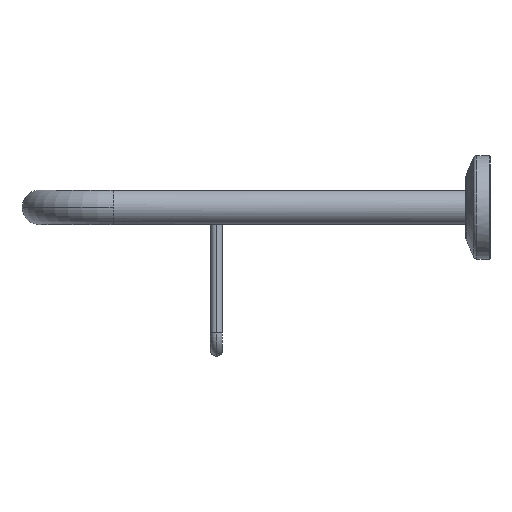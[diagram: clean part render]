
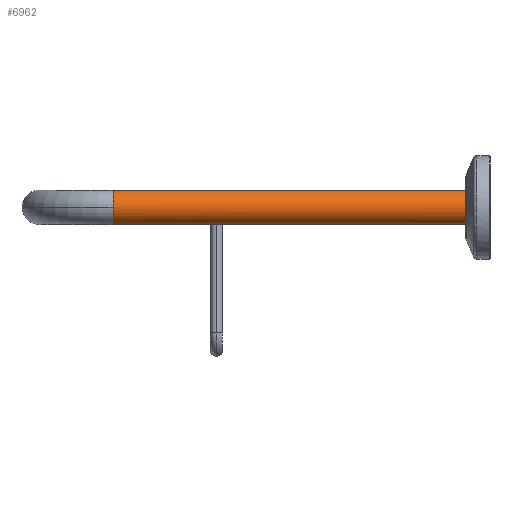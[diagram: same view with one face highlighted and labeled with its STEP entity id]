
A CAD part, left-side view. The second image highlights one B-rep face of the part: STEP entity #6962.
In plain terms, the highlighted cylindrical face has radius 10 mm (diameter 20 mm), a partial arc.
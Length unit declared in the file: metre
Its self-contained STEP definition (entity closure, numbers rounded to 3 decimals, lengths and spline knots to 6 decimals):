
#104=EDGE_CURVE('',#105,#108,#110,.F.);
#105=VERTEX_POINT('',#106);
#106=CARTESIAN_POINT('',(-0.64,0.0002,-0.01));
#107=CARTESIAN_POINT('',(-0.64,0.0002,0.01));
#108=VERTEX_POINT('',#109);
#109=CARTESIAN_POINT('',(-0.64,0.0002,0.01));
#110=(B_SPLINE_CURVE(3,(#107,#111,#112,#113),.UNSPECIFIED.,.F.,.U.)B_SPLINE_CURVE_WITH_KNOTS(
  (4,4),(0.0,1.0),.UNSPECIFIED.)BOUNDED_CURVE()CURVE()GEOMETRIC_REPRESENTATION_ITEM(
  )RATIONAL_B_SPLINE_CURVE((1.0,0.333,0.333,1.0)
  )REPRESENTATION_ITEM(''));
#111=CARTESIAN_POINT('',(-0.66,0.0002,0.01));
#112=CARTESIAN_POINT('',(-0.66,0.0002,-0.01));
#113=CARTESIAN_POINT('',(-0.64,0.0002,-0.01));
#6962=ADVANCED_FACE('',(#6968),#6963,.T.);
#6963=CYLINDRICAL_SURFACE('',#6964,0.01);
#6964=AXIS2_PLACEMENT_3D('',#6965,#6966,#6967);
#6965=CARTESIAN_POINT('',(-0.64,0.205,-0.0));
#6966=DIRECTION('',(0.0,-1.0,0.0));
#6967=DIRECTION('',(0.,0.0,-1.0));
#6968=FACE_OUTER_BOUND('',#6969,.T.);
#6969=EDGE_LOOP('',(#6970,#6981,#6987,#6988,#6996));
#6970=ORIENTED_EDGE('',*,*,#6971,.F.);
#6971=EDGE_CURVE('',#6972,#6974,#6976,.T.);
#6972=VERTEX_POINT('',#6973);
#6973=CARTESIAN_POINT('',(-0.64,0.205,-0.01));
#6974=VERTEX_POINT('',#6975);
#6975=CARTESIAN_POINT('',(-0.65,0.205,-0.0));
#6976=CIRCLE('',#6977,0.01);
#6977=AXIS2_PLACEMENT_3D('',#6978,#6979,#6980);
#6978=CARTESIAN_POINT('',(-0.64,0.205,-0.0));
#6979=DIRECTION('',(0.0,1.0,0.));
#6980=DIRECTION('',(0.,0.,-1.0));
#6981=ORIENTED_EDGE('',*,*,#6982,.T.);
#6982=EDGE_CURVE('',#6972,#105,#6983,.T.);
#6983=LINE('',#6984,#6985);
#6984=CARTESIAN_POINT('',(-0.64,0.205,-0.01));
#6985=VECTOR('',#6986,1.0);
#6986=DIRECTION('',(0.0,-1.0,0.0));
#6987=ORIENTED_EDGE('',*,*,#104,.T.);
#6988=ORIENTED_EDGE('',*,*,#6989,.F.);
#6989=EDGE_CURVE('',#6990,#108,#6992,.T.);
#6990=VERTEX_POINT('',#6991);
#6991=CARTESIAN_POINT('',(-0.64,0.205,0.01));
#6992=LINE('',#6993,#6994);
#6993=CARTESIAN_POINT('',(-0.64,0.205,0.01));
#6994=VECTOR('',#6995,1.0);
#6995=DIRECTION('',(0.0,-1.0,0.0));
#6996=ORIENTED_EDGE('',*,*,#6997,.F.);
#6997=EDGE_CURVE('',#6974,#6990,#6976,.T.);
